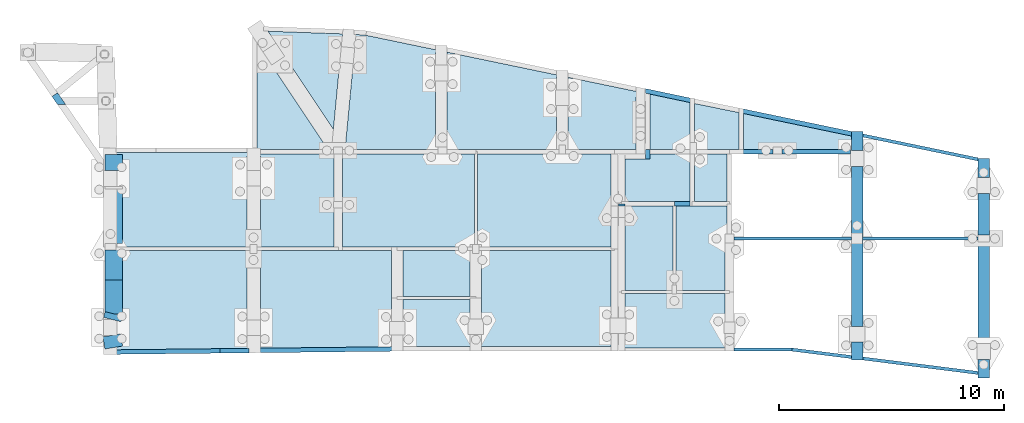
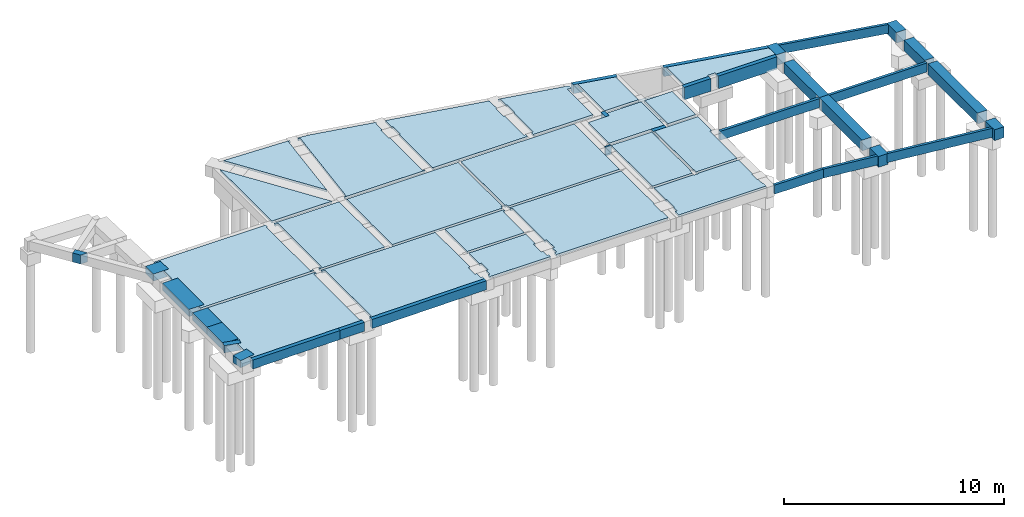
# One storey, part 3 of 5: 22 beams, 22 slabs, 9 walls.
"""IFC4 building model written with IfcOpenShell, lengths in centimetres."""

from ifc_helpers import new_model, si_unit, derived_unit, frame, origin, origin_with_axes, origin_2d_with_axis, place, context, project, spatial, polyline, rectangle, outline, extrude, clip, halfspace, material, element, save


model = new_model("IFC4")

# Units and contexts
model_context = context("Model", 3, precision=1e-05, world=origin_with_axes(), identifier="Body")
ifc_project = project(units=[si_unit("LENGTHUNIT", "METRE", prefix="CENTI"), si_unit("VOLUMEUNIT", "CUBIC_METRE"), si_unit("AREAUNIT", "SQUARE_METRE"), si_unit("POWERUNIT", "WATT"), si_unit("LUMINOUSFLUXUNIT", "LUMEN"), si_unit("ELECTRICCURRENTUNIT", "AMPERE"), si_unit("PRESSUREUNIT", "PASCAL", prefix="KILO"), si_unit("MASSUNIT", "GRAM", prefix="KILO"), si_unit("PLANEANGLEUNIT", "RADIAN"), derived_unit("VOLUMETRICFLOWRATEUNIT", [(si_unit("LENGTHUNIT", "METRE"), 3), (si_unit("TIMEUNIT", "SECOND"), -1)])], contexts=[model_context])

# Site, building, storey
site_placement = place(None, origin_with_axes())
site = spatial("IfcSite", under=ifc_project, at=site_placement)
building_placement = place(site_placement, origin())
building = spatial("IfcBuilding", under=site, at=building_placement)
storey_placement = place(building_placement, origin_with_axes())
storey = spatial("IfcBuildingStorey", under=building, at=storey_placement, Name="PÁTIO", CompositionType="ELEMENT", Elevation=0.0)

# Beams
ifc_material = material(Name="Concreto")
beam_1_placement = place(storey_placement, frame((162.51393133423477, -219.39417030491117, 0.0), z_axis=(0.0, 0.0, 1.0), x_axis=(1.0, 0.0, 0.0)))
element("IfcBeam", 1, at=beam_1_placement, inside=storey, material=ifc_material, Name="V.MURO3", context=model_context, shape_type="Clipping", body=[
    clip(extrude(rectangle(XDim=30.0, YDim=50.0, at=origin_2d_with_axis()), frame((17.723951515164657, -34.127459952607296, -25.0), z_axis=(-0.569442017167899, 0.822031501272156, 0.0), x_axis=(0.822031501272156, 0.569442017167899, 0.0)), (0.0, 0.0, 1.0), 62.25024139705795), halfspace(frame((-6.440527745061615, -25.58582969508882, 0.0), z_axis=(0.0, 1.0, 0.0), x_axis=(0.0, 0.0, 0.569442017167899)), True)),
])
beam_2_placement = place(storey_placement, frame((2668.6, -693.1, 0.0), z_axis=(0.0, 0.0, 1.0), x_axis=(1.0, 0.0, 0.0)))
element("IfcBeam", 2, at=beam_2_placement, inside=storey, material=ifc_material, Name="V20", context=model_context, shape_type="SolidModel", body=[
    extrude(rectangle(XDim=30.0, YDim=50.0, at=origin_2d_with_axis()), frame((0.0, -5.0, -25.0), z_axis=(0.0, 1.0, 0.0), x_axis=(1.0, 0.0, 0.0)), (0.0, 0.0, 1.0), 10.0),
])
beam_3_placement = place(storey_placement, frame((2785.0, -466.9, 0.0), z_axis=(0.0, 0.0, 1.0), x_axis=(1.0, 0.0, 0.0)))
element("IfcBeam", 3, at=beam_3_placement, inside=storey, material=ifc_material, Name="V21", context=model_context, shape_type="SolidModel", body=[
    extrude(rectangle(XDim=20.0, YDim=50.0, at=origin_2d_with_axis()), frame((0.0, -21.0, -25.0), z_axis=(0.0, 1.0, 0.0), x_axis=(1.0, 0.0, 0.0)), (0.0, 0.0, 1.0), 42.0),
])
beam_4_placement = place(storey_placement, frame((3717.85, -1038.24, 0.0), z_axis=(0.0, 0.0, 1.0), x_axis=(1.0, 0.0, 0.0)))
element("IfcBeam", 4, at=beam_4_placement, inside=storey, material=ifc_material, Name="V28", context=model_context, shape_type="SolidModel", body=[
    extrude(rectangle(XDim=50.0, YDim=60.0, at=origin_2d_with_axis()), frame((0.0, -195.14, -30.0), z_axis=(0.0, 1.0, 0.0), x_axis=(1.0, 0.0, 0.0)), (0.0, 0.0, 1.0), 390.28),
])
beam_5_placement = place(storey_placement, frame((3717.85, -1343.213332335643, 0.0), z_axis=(0.0, 0.0, 1.0), x_axis=(1.0, 0.0, 0.0)))
element("IfcBeam", 5, at=beam_5_placement, inside=storey, material=ifc_material, Name="V28", context=model_context, shape_type="SolidModel", body=[
    extrude(rectangle(XDim=50.0, YDim=60.0, at=origin_2d_with_axis()), frame((0.0, -39.833332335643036, -30.0), z_axis=(0.0, 1.0, 0.0), x_axis=(1.0, 0.0, 0.0)), (0.0, 0.0, 1.0), 79.66666467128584),
])
beam_6_placement = place(storey_placement, frame((3717.85, -682.5, 0.0), z_axis=(0.0, 0.0, 1.0), x_axis=(1.0, 0.0, 0.0)))
element("IfcBeam", 6, at=beam_6_placement, inside=storey, material=ifc_material, Name="V28", context=model_context, shape_type="SolidModel", body=[
    extrude(rectangle(XDim=50.0, YDim=60.0, at=origin_2d_with_axis()), frame((0.0, -160.6, -30.0), z_axis=(0.0, 1.0, 0.0), x_axis=(1.0, 0.0, 0.0)), (0.0, 0.0, 1.0), 321.2),
])
beam_7_placement = place(storey_placement, frame((3717.85, -409.5800394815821, 0.0), z_axis=(0.0, 0.0, 1.0), x_axis=(1.0, 0.0, 0.0)))
element("IfcBeam", 7, at=beam_7_placement, inside=storey, material=ifc_material, Name="V28", context=model_context, shape_type="SolidModel", body=[
    extrude(rectangle(XDim=50.0, YDim=60.0, at=origin_2d_with_axis()), frame((0.0, -42.31996051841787, -30.0), z_axis=(0.0, 1.0, 0.0), x_axis=(1.0, 0.0, 0.0)), (0.0, 0.0, 1.0), 84.63992103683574),
])
beam_8_placement = place(storey_placement, frame((4280.6, -1422.845, 0.0), z_axis=(0.0, 0.0, 1.0), x_axis=(1.0, 0.0, 0.0)))
element("IfcBeam", 8, at=beam_8_placement, inside=storey, material=ifc_material, Name="V29", context=model_context, shape_type="SolidModel", body=[
    extrude(rectangle(XDim=50.0, YDim=60.0, at=origin_2d_with_axis()), frame((0.0, -41.625, -30.0), z_axis=(0.0, 1.0, 0.0), x_axis=(1.0, 0.0, 0.0)), (0.0, 0.0, 1.0), 83.25),
])
beam_9_placement = place(storey_placement, frame((4280.6, -734.84, 0.0), z_axis=(0.0, 0.0, 1.0), x_axis=(1.0, 0.0, 0.0)))
element("IfcBeam", 9, at=beam_9_placement, inside=storey, material=ifc_material, Name="V29", context=model_context, shape_type="SolidModel", body=[
    extrude(rectangle(XDim=50.0, YDim=60.0, at=origin_2d_with_axis()), frame((0.0, -93.26, -30.0), z_axis=(0.0, 1.0, 0.0), x_axis=(1.0, 0.0, 0.0)), (0.0, 0.0, 1.0), 186.52),
])
beam_10_placement = place(storey_placement, frame((4280.6, -528.5000789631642, 0.0), z_axis=(0.0, 0.0, 1.0), x_axis=(1.0, 0.0, 0.0)))
element("IfcBeam", 10, at=beam_10_placement, inside=storey, material=ifc_material, Name="V29", context=model_context, shape_type="SolidModel", body=[
    extrude(rectangle(XDim=50.0, YDim=60.0, at=origin_2d_with_axis()), frame((0.0, -43.0799210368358, -30.0), z_axis=(0.0, 1.0, 0.0), x_axis=(1.0, 0.0, 0.0)), (0.0, 0.0, 1.0), 86.15984207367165),
])
beam_11_placement = place(storey_placement, frame((4280.6, -1084.66, 0.0), z_axis=(0.0, 0.0, 1.0), x_axis=(1.0, 0.0, 0.0)))
element("IfcBeam", 11, at=beam_11_placement, inside=storey, material=ifc_material, Name="V29", context=model_context, shape_type="SolidModel", body=[
    extrude(rectangle(XDim=50.0, YDim=60.0, at=origin_2d_with_axis()), frame((0.0, -226.56, -30.0), z_axis=(0.0, 1.0, 0.0), x_axis=(1.0, 0.0, 0.0)), (0.0, 0.0, 1.0), 453.12),
])
beam_12_placement = place(storey_placement, frame((3271.5, -455.9, 0.0), z_axis=(0.0, 0.0, 1.0), x_axis=(1.0, 0.0, 0.0)))
element("IfcBeam", 12, at=beam_12_placement, inside=storey, material=ifc_material, Name="V3", context=model_context, shape_type="SolidModel", body=[
    extrude(rectangle(XDim=20.0, YDim=70.0, at=origin_2d_with_axis()), frame((-70.1, 0.0, -35.0), z_axis=(1.0, 0.0, 0.0), x_axis=(0.0, 1.0, 0.0)), (0.0, 0.0, 1.0), 140.2),
])
beam_13_placement = place(storey_placement, frame((3534.725, -455.9, 0.0), z_axis=(0.0, 0.0, 1.0), x_axis=(1.0, 0.0, 0.0)))
element("IfcBeam", 13, at=beam_13_placement, inside=storey, material=ifc_material, Name="V3", context=model_context, shape_type="SolidModel", body=[
    extrude(rectangle(XDim=20.0, YDim=70.0, at=origin_2d_with_axis()), frame((-153.125, 0.0, -35.0), z_axis=(1.0, 0.0, 0.0), x_axis=(0.0, 1.0, 0.0)), (0.0, 0.0, 1.0), 306.25),
])
beam_14_placement = place(storey_placement, frame((3446.1029201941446, -325.537081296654, 0.0), z_axis=(0.0, 0.0, 1.0), x_axis=(1.0, 0.0, 0.0)))
element("IfcBeam", 14, at=beam_14_placement, inside=storey, material=ifc_material, Name="V31", context=model_context, shape_type="Clipping", body=[
    clip(extrude(rectangle(XDim=20.0, YDim=50.0, at=origin_2d_with_axis()), frame((-244.70292019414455, 51.52708129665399, -25.0), z_axis=(0.978884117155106, -0.204415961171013, 0.0), x_axis=(0.204415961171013, 0.978884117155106, 0.0)), (0.0, 0.0, 1.0), 504.1395104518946), halfspace(frame((246.74707980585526, -40.88449483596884, -50.0), z_axis=(-1.0, 0.0, 0.0), x_axis=(0.0, 0.0, 0.204415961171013)), True)),
])
beam_15_placement = place(storey_placement, frame((2880.029829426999, -207.15824281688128, 0.0), z_axis=(0.0, 0.0, 1.0), x_axis=(1.0, 0.0, 0.0)))
element("IfcBeam", 15, at=beam_15_placement, inside=storey, material=ifc_material, Name="V31", context=model_context, shape_type="Clipping", body=[
    clip(extrude(rectangle(XDim=20.0, YDim=50.0, at=origin_2d_with_axis()), frame((-107.08948828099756, 22.106544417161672, -25.0), z_axis=(0.978559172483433, -0.205965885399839, 0.0), x_axis=(0.205965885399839, 0.978559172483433, 0.0)), (0.0, 0.0, 1.0), 214.66219392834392), halfspace(frame((-105.02982942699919, 31.892136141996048, 0.0), z_axis=(1.0, 0.0, 0.0), x_axis=(0.0, 0.0, -0.205965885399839)), True)),
])
beam_16_placement = place(storey_placement, frame((3974.8665353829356, -432.3998820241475, 0.0), z_axis=(0.0, 0.0, 1.0), x_axis=(1.0, 0.0, 0.0)))
element("IfcBeam", 16, at=beam_16_placement, inside=storey, material=ifc_material, Name="V32", context=model_context, shape_type="Clipping", body=[
    clip(extrude(rectangle(XDim=14.0, YDim=50.0, at=origin_2d_with_axis()), frame((-279.3109728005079, 58.2644371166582, -25.0), z_axis=(0.979134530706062, -0.203213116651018, 0.0), x_axis=(0.203213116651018, 0.979134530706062, 0.0)), (0.0, 0.0, 1.0), 573.4318539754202), halfspace(frame((280.7334646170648, -50.82003722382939, -50.0), z_axis=(-1.0, 0.0, 0.0), x_axis=(0.0, 0.0, 0.203213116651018)), True)),
])
beam_17_placement = place(storey_placement, frame((3986.287928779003, -1407.547980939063, 0.0), z_axis=(0.0, 0.0, 1.0), x_axis=(1.0, 0.0, 0.0)))
element("IfcBeam", 17, at=beam_17_placement, inside=storey, material=ifc_material, Name="V34", context=model_context, shape_type="Clipping", body=[
    clip(extrude(rectangle(XDim=14.0, YDim=50.0, at=origin_2d_with_axis()), frame((-268.4384148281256, 33.87720517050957, -25.0), z_axis=(0.992180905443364, -0.124808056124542, 0.0), x_axis=(0.124808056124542, 0.992180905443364, 0.0)), (0.0, 0.0, 1.0), 542.8688855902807), halfspace(frame((269.3120712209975, -26.712141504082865, -50.0), z_axis=(-1.0, 0.0, 0.0), x_axis=(0.0, 0.0, 0.124808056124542)), True)),
])
beam_18_placement = place(storey_placement, frame((3297.71870723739, -1337.1, 0.0), z_axis=(0.0, 0.0, 1.0), x_axis=(1.0, 0.0, 0.0)))
element("IfcBeam", 18, at=beam_18_placement, inside=storey, material=ifc_material, Name="V34", context=model_context, shape_type="Clipping", body=[
    clip(extrude(rectangle(XDim=14.0, YDim=50.0, at=origin_2d_with_axis()), frame((-129.11870723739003, 0.0, -25.0), z_axis=(1.0, 0.0, 0.0), x_axis=(0.0, 1.0, 0.0)), (0.0, 0.0, 1.0), 258.2374144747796), halfspace(frame((129.11870723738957, 7.0, -50.0), z_axis=(-0.998053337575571, 0.062366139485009, 0.0), x_axis=(0.0, 0.0, -0.062366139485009)), True)),
])
beam_19_placement = place(storey_placement, frame((3559.406292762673, -1353.8425777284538, 0.0), z_axis=(0.0, 0.0, 1.0), x_axis=(1.0, 0.0, 0.0)))
element("IfcBeam", 19, at=beam_19_placement, inside=storey, material=ifc_material, Name="V34", context=model_context, shape_type="Clipping", body=[
    clip(clip(extrude(rectangle(XDim=14.0, YDim=50.0, at=origin_2d_with_axis()), frame((-133.44030455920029, 16.797031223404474, -25.0), z_axis=(0.992220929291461, -0.124489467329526, 0.0), x_axis=(0.124489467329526, 0.992220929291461, 0.0)), (0.0, 0.0, 1.0), 269.85465652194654), halfspace(frame((-132.56887828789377, 23.742577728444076, 0.0), z_axis=(0.99805333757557, -0.062366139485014, 0.0), x_axis=(0.0, 0.0, -0.062366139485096)), True)), halfspace(frame((133.4437072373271, -9.632816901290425, -50.0), z_axis=(-1.0, 0.0, 0.0), x_axis=(0.0, 0.0, 0.124489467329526)), True)),
])
beam_20_placement = place(storey_placement, frame((2938.3, -688.1, 0.0), z_axis=(0.0, 0.0, 1.0), x_axis=(1.0, 0.0, 0.0)))
element("IfcBeam", 20, at=beam_20_placement, inside=storey, material=ifc_material, Name="V4", context=model_context, shape_type="SolidModel", body=[
    extrude(rectangle(XDim=20.0, YDim=50.0, at=origin_2d_with_axis()), frame((-34.7, 0.0, -25.0), z_axis=(1.0, 0.0, 0.0), x_axis=(0.0, 1.0, 0.0)), (0.0, 0.0, 1.0), 69.4),
])
beam_21_placement = place(storey_placement, frame((3430.1, -843.1, 0.0), z_axis=(0.0, 0.0, 1.0), x_axis=(1.0, 0.0, 0.0)))
element("IfcBeam", 21, at=beam_21_placement, inside=storey, material=ifc_material, Name="V7", context=model_context, shape_type="SolidModel", body=[
    extrude(rectangle(XDim=14.0, YDim=50.0, at=origin_2d_with_axis()), frame((-261.5, 0.0, -25.0), z_axis=(1.0, 0.0, 0.0), x_axis=(0.0, 1.0, 0.0)), (0.0, 0.0, 1.0), 523.0),
])
beam_22_placement = place(storey_placement, frame((3998.6, -843.1, 0.0), z_axis=(0.0, 0.0, 1.0), x_axis=(1.0, 0.0, 0.0)))
element("IfcBeam", 22, at=beam_22_placement, inside=storey, material=ifc_material, Name="V7", context=model_context, shape_type="SolidModel", body=[
    extrude(rectangle(XDim=14.0, YDim=50.0, at=origin_2d_with_axis()), frame((-257.0, 0.0, -25.0), z_axis=(1.0, 0.0, 0.0), x_axis=(0.0, 1.0, 0.0)), (0.0, 0.0, 1.0), 514.0),
])

# Slabs
slab_1_placement = place(storey_placement, frame((1202.802, -209.0975, 0.0), z_axis=(0.0, 0.0, 1.0), x_axis=(1.0, 0.0, 0.0)))
element("IfcSlab", 23, at=slab_1_placement, inside=storey, material=ifc_material, Name="L1", PredefinedType="FLOOR", context=model_context, shape_type="SolidModel", body=[
    extrude(outline(polyline([(-92.4920999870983, 138.83763295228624), (-131.33109998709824, 197.07763295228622), (-157.80209998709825, 236.80163295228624), (-157.80109998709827, -236.80136704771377), (157.8019000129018, -236.80136704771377), (-92.4920999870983, 138.83763295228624), (-92.4920999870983, 138.83763295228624)])), frame((9.998709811e-05, -0.000132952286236, -12.0), z_axis=(0.0, 0.0, 1.0), x_axis=(1.0, 0.0, 0.0)), (0.0, 0.0, 1.0), 12.0),
])
slab_2_placement = place(storey_placement, frame((1215.7425, -673.6495, 0.0), z_axis=(0.0, 0.0, 1.0), x_axis=(1.0, 0.0, 0.0)))
element("IfcSlab", 24, at=slab_2_placement, inside=storey, material=ifc_material, Name="L10", PredefinedType="FLOOR", context=model_context, shape_type="SolidModel", body=[
    extrude(outline(polyline([(171.2166625, -34.249), (170.2576625, -34.249), (170.2576625, -4.249), (171.2176625, -4.249), (171.2176625, 207.75), (-170.7423375, 207.749), (-170.7423375, 197.85), (-156.0413375, 197.85), (-156.0413375, -197.749), (-171.1823375, -197.749), (-171.2173375, -207.749), (171.2166625, -207.749), (171.2166625, -34.249), (171.2166625, -34.249)])), frame((-0.0001625, -0.0005, -12.0), z_axis=(0.0, 0.0, 1.0), x_axis=(1.0, 0.0, 0.0)), (0.0, 0.0, 1.0), 12.0),
])
slab_3_placement = place(storey_placement, frame((1719.3, -673.65, 0.0), z_axis=(0.0, 0.0, 1.0), x_axis=(1.0, 0.0, 0.0)))
element("IfcSlab", 25, at=slab_3_placement, inside=storey, material=ifc_material, Name="L11", PredefinedType="FLOOR", context=model_context, shape_type="SolidModel", body=[
    extrude(outline(polyline([(-292.34, -207.75), (285.299, -207.749), (285.299, -194.749), (293.299, -194.749), (293.3, 207.75), (-292.339, 207.75), (-292.339, -7.249), (-293.3, -7.249), (-293.3, -31.249), (-292.339, -31.249), (-292.34, -207.75), (-292.34, -207.75)])), frame((0.0, 0.0, -12.0), z_axis=(0.0, 0.0, 1.0), x_axis=(1.0, 0.0, 0.0)), (0.0, 0.0, 1.0), 12.0),
])
slab_4_placement = place(storey_placement, frame((2324.1, -673.65, 0.0), z_axis=(0.0, 0.0, 1.0), x_axis=(1.0, 0.0, 0.0)))
element("IfcSlab", 26, at=slab_4_placement, inside=storey, material=ifc_material, Name="L12", PredefinedType="FLOOR", context=model_context, shape_type="SolidModel", body=[
    extrude(outline(polyline([(297.5, -207.75), (297.499, 207.75), (-297.499, 207.749), (-297.5, -194.749), (-289.5, -194.749), (-289.5, -207.749), (297.5, -207.75), (297.5, -207.75)])), frame((0.0, 0.0, -12.0), z_axis=(0.0, 0.0, 1.0), x_axis=(1.0, 0.0, 0.0)), (0.0, 0.0, 1.0), 12.0),
])
slab_5_placement = place(storey_placement, frame((2828.3, -572.0, 0.0), z_axis=(0.0, 0.0, 1.0), x_axis=(1.0, 0.0, 0.0)))
element("IfcSlab", 27, at=slab_5_placement, inside=storey, material=ifc_material, Name="L13", PredefinedType="FLOOR", context=model_context, shape_type="SolidModel", body=[
    extrude(outline(polyline([(144.7, 106.1), (-33.3, 106.1), (-33.3, 94.1), (-43.3, 94.1), (-43.3, 84.1), (-144.7, 84.099), (-144.7, -106.099), (144.7, -106.1), (144.7, 106.1), (144.7, 106.1)])), frame((0.0, 0.0, -12.0), z_axis=(0.0, 0.0, 1.0), x_axis=(1.0, 0.0, 0.0)), (0.0, 0.0, 1.0), 12.0),
])
slab_6_placement = place(storey_placement, frame((3065.8, -572.0, 0.0), z_axis=(0.0, 0.0, 1.0), x_axis=(1.0, 0.0, 0.0)))
element("IfcSlab", 28, at=slab_6_placement, inside=storey, material=ifc_material, Name="L14", PredefinedType="FLOOR", context=model_context, shape_type="SolidModel", body=[
    extrude(outline(polyline([(72.799, 106.099), (-72.8, 106.1), (-72.8, -106.1), (72.8, -106.1), (72.799, 106.099), (72.799, 106.099)])), frame((0.0, 0.0, -12.0), z_axis=(0.0, 0.0, 1.0), x_axis=(1.0, 0.0, 0.0)), (0.0, 0.0, 1.0), 12.0),
])
slab_7_placement = place(storey_placement, frame((2790.1, -885.6, 0.0), z_axis=(0.0, 0.0, 1.0), x_axis=(1.0, 0.0, 0.0)))
element("IfcSlab", 29, at=slab_7_placement, inside=storey, material=ifc_material, Name="L15", PredefinedType="FLOOR", context=model_context, shape_type="SolidModel", body=[
    extrude(outline(polyline([(103.499, -164.499), (106.499, -164.499), (106.5, 187.499), (-106.5, 187.499), (-106.499, -187.499), (103.499, -187.499), (103.499, -164.499), (103.499, -164.499)])), frame((0.0, 0.0, -12.0), z_axis=(0.0, 0.0, 1.0), x_axis=(1.0, 0.0, 0.0)), (0.0, 0.0, 1.0), 12.0),
])
slab_8_placement = place(storey_placement, frame((3024.6, -885.6, 0.0), z_axis=(0.0, 0.0, 1.0), x_axis=(1.0, 0.0, 0.0)))
element("IfcSlab", 30, at=slab_8_placement, inside=storey, material=ifc_material, Name="L16", PredefinedType="FLOOR", context=model_context, shape_type="SolidModel", body=[
    extrude(outline(polyline([(103.999, 61.999), (113.999, 62.0), (113.999, 187.499), (-113.999, 187.499), (-113.999, -164.499), (-111.0, -164.499), (-111.0, -187.499), (103.999, -187.499), (103.999, 61.999), (103.999, 61.999)])), frame((0.0, 0.0, -12.0), z_axis=(0.0, 0.0, 1.0), x_axis=(1.0, 0.0, 0.0)), (0.0, 0.0, 1.0), 12.0),
])
slab_9_placement = place(storey_placement, frame((711.1125, -1116.798, 0.0), z_axis=(0.0, 0.0, 1.0), x_axis=(1.0, 0.0, 0.0)))
element("IfcSlab", 31, at=slab_9_placement, inside=storey, material=ifc_material, Name="L17", PredefinedType="FLOOR", context=model_context, shape_type="SolidModel", body=[
    extrude(outline(polyline([(168.3773375, -216.2606867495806), (298.5873375, -214.8146867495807), (298.5873375, -207.20168674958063), (288.5873375, -207.20168674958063), (288.5873375, 211.3983132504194), (303.3273375, 211.3983132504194), (303.3623375, 221.3983132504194), (-293.3616625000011, 221.3973132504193), (-293.3626625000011, -61.00068674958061), (-303.3626625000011, -61.00068674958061), (-293.6526625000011, -63.391686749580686), (-299.46666250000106, -87.02168674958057), (-288.3626625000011, -87.02068674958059), (-288.3626625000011, -157.0206867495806), (-302.3626625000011, -157.0206867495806), (-293.3626625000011, -211.40168674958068), (-293.3626625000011, -221.39768674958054), (168.3773375, -216.2606867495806), (168.3773375, -216.2606867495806)])), frame((0.000162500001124, -0.000313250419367, -12.0), z_axis=(0.0, 0.0, 1.0), x_axis=(1.0, 0.0, 0.0)), (0.0, 0.0, 1.0), 12.0),
])
slab_10_placement = place(storey_placement, frame((1349.5205, -1113.283, 0.0), z_axis=(0.0, 0.0, 1.0), x_axis=(1.0, 0.0, 0.0)))
element("IfcSlab", 32, at=slab_10_placement, inside=storey, material=ifc_material, Name="L18", PredefinedType="FLOOR", context=model_context, shape_type="SolidModel", body=[
    extrude(outline(polyline([(305.0796625, -211.14969667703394), (305.0786625, -193.81669667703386), (295.0786625, -193.81569667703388), (295.0786625, -158.906696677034), (285.0786625, -158.906696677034), (285.0786625, -98.906696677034), (295.0786625, -98.90569667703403), (295.0786625, 217.88230332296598), (-305.0443375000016, 217.88330332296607), (-305.07933750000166, 207.88330332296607), (-289.81933750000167, 207.88330332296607), (-289.81933750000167, -210.71669667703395), (-299.81933750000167, -210.71669667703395), (-299.82033750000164, -217.8826966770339), (305.0796625, -211.14969667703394), (305.0796625, -211.14969667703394)])), frame((-0.0001625, -0.000303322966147, -12.0), z_axis=(0.0, 0.0, 1.0), x_axis=(1.0, 0.0, 0.0)), (0.0, 0.0, 1.0), 12.0),
])
slab_11_placement = place(storey_placement, frame((1849.5995, -997.65, 0.0), z_axis=(0.0, 0.0, 1.0), x_axis=(1.0, 0.0, 0.0)))
element("IfcSlab", 33, at=slab_11_placement, inside=storey, material=ifc_material, Name="L19", PredefinedType="FLOOR", context=model_context, shape_type="SolidModel", body=[
    extrude(outline(polyline([(145.0, -102.249), (144.999, 92.25), (154.999, 92.25), (154.999, 102.25), (-155.0, 102.249), (-155.0, -102.25), (145.0, -102.249), (145.0, -102.249)])), frame((0.0005, 0.0, -12.0), z_axis=(0.0, 0.0, 1.0), x_axis=(1.0, 0.0, 0.0)), (0.0, 0.0, 1.0), 12.0),
])
slab_12_placement = place(storey_placement, frame((1265.123, -138.269, 0.0), z_axis=(0.0, 0.0, 1.0), x_axis=(1.0, 0.0, 0.0)))
element("IfcSlab", 34, at=slab_12_placement, inside=storey, material=ifc_material, Name="L2", PredefinedType="FLOOR", context=model_context, shape_type="SolidModel", body=[
    extrude(outline(polyline([(148.73615679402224, 80.11917410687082), (155.44615679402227, 149.79917410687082), (160.50715679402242, 202.54917410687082), (170.61015679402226, 201.58117410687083), (171.02115679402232, 206.37517410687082), (-171.0208432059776, 218.51017410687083), (-135.41184320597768, 165.08917410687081), (-96.57284320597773, 106.84917410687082), (120.21515679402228, -218.50982589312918), (148.73615679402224, 80.11917410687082), (148.73615679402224, 80.11917410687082)])), frame((-0.000156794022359, -0.000174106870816, -12.0), z_axis=(0.0, 0.0, 1.0), x_axis=(1.0, 0.0, 0.0)), (0.0, 0.0, 1.0), 12.0),
])
slab_13_placement = place(storey_placement, frame((2328.1, -1109.75, 0.0), z_axis=(0.0, 0.0, 1.0), x_axis=(1.0, 0.0, 0.0)))
element("IfcSlab", 35, at=slab_13_placement, inside=storey, material=ifc_material, Name="L20", PredefinedType="FLOOR", context=model_context, shape_type="SolidModel", body=[
    extrude(outline(polyline([(293.499, -156.409), (289.499, -156.41), (289.499, -86.41), (293.499, -86.41), (293.5, 214.35), (-293.5, 214.35), (-293.499, 204.349), (-283.5, 204.35), (-283.5, -90.93), (-273.5, -90.93), (-273.5, -160.93), (-283.499, -160.93), (-283.5, -197.349), (-293.5, -197.349), (-293.499, -214.35), (293.499, -214.35), (293.499, -156.409), (293.499, -156.409)])), frame((0.0, 0.0, -12.0), z_axis=(0.0, 0.0, 1.0), x_axis=(1.0, 0.0, 0.0)), (0.0, 0.0, 1.0), 12.0),
])
slab_14_placement = place(storey_placement, frame((1844.5995, -1219.0, 0.0), z_axis=(0.0, 0.0, 1.0), x_axis=(1.0, 0.0, 0.0)))
element("IfcSlab", 36, at=slab_14_placement, inside=storey, material=ifc_material, Name="L21", PredefinedType="FLOOR", context=model_context, shape_type="SolidModel", body=[
    extrude(outline(polyline([(159.999, -105.099), (159.999, -88.099), (149.999, -88.099), (150.0, -51.68), (139.999, -51.68), (139.999, 18.319), (149.999, 18.32), (149.999, 105.1), (-149.999, 105.099), (-150.0, 6.809), (-140.0, 6.809), (-140.0, -53.19), (-149.999, -53.19), (-150.0, -88.099), (-160.0, -88.099), (-159.999, -105.1), (159.999, -105.099), (159.999, -105.099)])), frame((0.0005, 0.0, -12.0), z_axis=(0.0, 0.0, 1.0), x_axis=(1.0, 0.0, 0.0)), (0.0, 0.0, 1.0), 12.0),
])
slab_15_placement = place(storey_placement, frame((2903.5995, -1208.6, 0.0), z_axis=(0.0, 0.0, 1.0), x_axis=(1.0, 0.0, 0.0)))
element("IfcSlab", 37, at=slab_15_placement, inside=storey, material=ifc_material, Name="L22", PredefinedType="FLOOR", context=model_context, shape_type="SolidModel", body=[
    extrude(outline(polyline([(229.999, -121.499), (229.999, -98.499), (224.999, -98.499), (224.999, -56.77), (219.999, -56.769), (219.999, -6.769), (225.0, -6.769), (225.0, 121.5), (9.999, 121.5), (9.999, 118.5), (-10.0, 118.5), (-10.0, 121.499), (-220.0, 121.5), (-220.0, 12.44), (-216.0, 12.439), (-216.0, -57.56), (-219.999, -57.559), (-220.0, -88.499), (-230.0, -87.5), (-229.999, -121.5), (229.999, -121.499), (229.999, -121.499)])), frame((0.0005, 0.0, -12.0), z_axis=(0.0, 0.0, 1.0), x_axis=(1.0, 0.0, 0.0)), (0.0, 0.0, 1.0), 12.0),
])
slab_16_placement = place(storey_placement, frame((1638.5, -189.601, 0.0), z_axis=(0.0, 0.0, 1.0), x_axis=(1.0, 0.0, 0.0)))
element("IfcSlab", 38, at=slab_16_placement, inside=storey, material=ifc_material, Name="L3", PredefinedType="FLOOR", context=model_context, shape_type="SolidModel", body=[
    extrude(outline(polyline([(212.5, -248.69902423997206), (202.5, -249.29802423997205), (202.499, 49.180975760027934), (197.5, 49.180975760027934), (197.5, 119.18097576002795), (202.5, 119.17997576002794), (202.5, 174.73097576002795), (207.465, 176.96097576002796), (209.292, 185.78997576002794), (-108.394, 251.75297576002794), (-162.33, 256.29897576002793), (-162.949, 249.09897576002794), (-153.15, 248.16097576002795), (-158.21, 195.37097576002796), (-164.92, 125.70097576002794), (-201.0, -252.13902423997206), (-212.499, -251.03702423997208), (-212.5, -256.299024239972), (212.499, -256.299024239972), (212.5, -248.69902423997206), (212.5, -248.69902423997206)])), frame((0.0, 2.4239972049e-05, -12.0), z_axis=(0.0, 0.0, 1.0), x_axis=(1.0, 0.0, 0.0)), (0.0, 0.0, 1.0), 12.0),
])
slab_17_placement = place(storey_placement, frame((2140.25, -229.341, 0.0), z_axis=(0.0, 0.0, 1.0), x_axis=(1.0, 0.0, 0.0)))
element("IfcSlab", 39, at=slab_17_placement, inside=storey, material=ifc_material, Name="L4", PredefinedType="FLOOR", context=model_context, shape_type="SolidModel", body=[
    extrude(outline(polyline([(249.25, -199.55824549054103), (239.25, -199.55824549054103), (239.249, -21.80924549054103), (234.25, -21.80924549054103), (234.25, 48.189754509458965), (239.249, 48.19075450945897), (239.25, 104.89475450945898), (238.84, 104.98075450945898), (239.249, 106.94475450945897), (239.25, 107.90075450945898), (239.445, 107.87975450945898), (240.885, 114.77975450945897), (-249.25, 216.55875450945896), (-249.25, 158.920754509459), (-244.25, 158.91975450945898), (-244.25, 88.92075450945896), (-249.25, 88.92075450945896), (-249.25, -216.55824549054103), (249.25, -216.559245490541), (249.25, -199.55824549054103), (249.25, -199.55824549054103)])), frame((0.0, 0.000245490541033, -12.0), z_axis=(0.0, 0.0, 1.0), x_axis=(1.0, 0.0, 0.0)), (0.0, 0.0, 1.0), 12.0),
])
slab_18_placement = place(storey_placement, frame((2586.2505, -284.2955, 0.0), z_axis=(0.0, 0.0, 1.0), x_axis=(1.0, 0.0, 0.0)))
element("IfcSlab", 40, at=slab_18_placement, inside=storey, material=ifc_material, Name="L5", PredefinedType="FLOOR", context=model_context, shape_type="SolidModel", body=[
    extrude(outline(polyline([(-166.749, -161.6048688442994), (146.75, -161.60386884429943), (146.75, 71.80413115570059), (166.75, 70.30413115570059), (166.749, 92.52513115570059), (-165.95, 161.60413115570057), (-166.566, 158.65913115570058), (-156.75, 157.63513115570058), (-156.75, 103.14513115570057), (-151.75, 103.14513115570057), (-151.75, 33.14413115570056), (-156.75, 33.14413115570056), (-156.75, -144.60386884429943), (-166.749, -144.60386884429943), (-166.749, -161.6048688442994), (-166.749, -161.6048688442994)])), frame((-0.0005, 0.00036884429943, -12.0), z_axis=(0.0, 0.0, 1.0), x_axis=(1.0, 0.0, 0.0)), (0.0, 0.0, 1.0), 12.0),
])
slab_19_placement = place(storey_placement, frame((2884.0005, -322.909, 0.0), z_axis=(0.0, 0.0, 1.0), x_axis=(1.0, 0.0, 0.0)))
element("IfcSlab", 41, at=slab_19_placement, inside=storey, material=ifc_material, Name="L6", PredefinedType="FLOOR", context=model_context, shape_type="SolidModel", body=[
    extrude(outline(polyline([(89.0, 85.52711191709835), (-88.999, 122.99011191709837), (-88.999, -122.98988808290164), (89.0, -122.98988808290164), (89.0, 85.52711191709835), (89.0, 85.52711191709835)])), frame((-0.0005, -0.000111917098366, -12.0), z_axis=(0.0, 0.0, 1.0), x_axis=(1.0, 0.0, 0.0)), (0.0, 0.0, 1.0), 12.0),
])
slab_20_placement = place(storey_placement, frame((3092.2, -343.741, -150.0), z_axis=(0.0, 0.0, 1.0), x_axis=(1.0, 0.0, 0.0)))
element("IfcSlab", 42, at=slab_20_placement, inside=storey, material=ifc_material, Name="L7", PredefinedType="FLOOR", context=model_context, shape_type="SolidModel", body=[
    extrude(outline(polyline([(-89.2, -102.15924476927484), (99.2, -102.15824476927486), (99.2, 61.566755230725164), (-99.2, 102.15875523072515), (-99.2, -72.15924476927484), (-89.2, -72.15824476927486), (-89.2, -102.15924476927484), (-89.2, -102.15924476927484)])), frame((0.0, 0.000244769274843, -20.0), z_axis=(0.0, 0.0, 1.0), x_axis=(1.0, 0.0, 0.0)), (0.0, 0.0, 1.0), 20.0),
])
slab_21_placement = place(storey_placement, frame((3452.164, -369.1075, 0.0), z_axis=(0.0, 0.0, 1.0), x_axis=(1.0, 0.0, 0.0)))
element("IfcSlab", 43, at=slab_21_placement, inside=storey, material=ifc_material, Name="L8", PredefinedType="FLOOR", context=model_context, shape_type="SolidModel", body=[
    extrude(outline(polyline([(240.6862181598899, -27.931893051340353), (238.72521815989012, -27.521893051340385), (240.76321815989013, -17.759893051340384), (-240.76278184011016, 82.79210694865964), (-240.76278184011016, -76.79189305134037), (-110.5637818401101, -76.79289305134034), (-110.5637818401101, -66.79189305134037), (-70.5637818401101, -66.79189305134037), (-70.5637818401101, -76.79189305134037), (238.68521815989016, -76.79189305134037), (238.6862181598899, -82.79289305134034), (240.68521815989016, -82.79289305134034), (240.6862181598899, -27.931893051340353), (240.6862181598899, -27.931893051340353)])), frame((-0.000218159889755, 0.000393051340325, -12.0), z_axis=(0.0, 0.0, 1.0), x_axis=(1.0, 0.0, 0.0)), (0.0, 0.0, 1.0), 12.0),
])
slab_22_placement = place(storey_placement, frame((716.1545, -670.0995, 0.0), z_axis=(0.0, 0.0, 1.0), x_axis=(1.0, 0.0, 0.0)))
element("IfcSlab", 44, at=slab_22_placement, inside=storey, material=ifc_material, Name="L9", PredefinedType="FLOOR", context=model_context, shape_type="SolidModel", body=[
    extrude(outline(polyline([(298.4043375, -201.299), (283.5453375, -201.299), (283.5453375, 194.3), (288.8453375, 194.3), (288.8453375, 211.3), (-298.4046625, 211.3), (-298.4046625, 129.799), (-293.4046625, 129.8), (-293.4046625, 59.8), (-298.4036625, 59.8), (-298.4046625, -211.299), (298.3693375, -211.299), (298.4043375, -201.299), (298.4043375, -201.299)])), frame((0.0001625, -0.0005, -12.0), z_axis=(0.0, 0.0, 1.0), x_axis=(1.0, 0.0, 0.0)), (0.0, 0.0, 1.0), 12.0),
])

# Walls
wall_1_placement = place(storey_placement, frame((648.675, -1345.63, 0.0), z_axis=(0.0, 0.0, 1.0), x_axis=(1.0, 0.0, 0.0)))
element("IfcWall", 45, at=wall_1_placement, inside=storey, material=ifc_material, Name="PAR4-A", PredefinedType="SHEAR", context=model_context, shape_type="SweptSolid", body=[
    extrude(rectangle(XDim=20.0, YDim=50.0, at=origin_2d_with_axis()), frame((-230.925, -2.57, -25.0), z_axis=(1.0, 0.011128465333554, 0.0), x_axis=(0.011128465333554, -1.0, 0.0)), (0.0, 0.0, 1.0), 461.8786010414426),
])
wall_2_placement = place(storey_placement, frame((944.65, -1342.335, 0.0), z_axis=(0.0, 0.0, 1.0), x_axis=(1.0, 0.0, 0.0)))
element("IfcWall", 46, at=wall_2_placement, inside=storey, material=ifc_material, Name="PAR4-B", PredefinedType="SHEAR", context=model_context, shape_type="SweptSolid", body=[
    extrude(rectangle(XDim=20.0, YDim=50.0, at=origin_2d_with_axis()), frame((-65.05, -0.725, -25.0), z_axis=(1.0, 0.01114458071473, 0.0), x_axis=(0.01114458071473, -1.0, 0.0)), (0.0, 0.0, 1.0), 130.10808007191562),
])
wall_3_placement = place(storey_placement, frame((1352.15, -1337.8, 0.0), z_axis=(0.0, 0.0, 1.0), x_axis=(1.0, 0.0, 0.0)))
element("IfcWall", 47, at=wall_3_placement, inside=storey, material=ifc_material, Name="PAR4-C", PredefinedType="SHEAR", context=model_context, shape_type="SweptSolid", body=[
    extrude(rectangle(XDim=20.0, YDim=50.0, at=origin_2d_with_axis()), frame((-302.45, -3.37, -25.0), z_axis=(1.0, 0.011141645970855, 0.0), x_axis=(0.011141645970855, -1.0, 0.0)), (0.0, 0.0, 1.0), 604.9375485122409),
])
wall_4_placement = place(storey_placement, frame((407.45, -961.125, 0.0), z_axis=(0.0, 0.0, 1.0), x_axis=(1.0, 0.0, 0.0)))
element("IfcWall", 48, at=wall_4_placement, inside=storey, material=ifc_material, Name="PAR6-A", PredefinedType="SHEAR", context=model_context, shape_type="SweptSolid", body=[
    extrude(rectangle(XDim=80.0, YDim=40.0, at=origin_2d_with_axis()), frame((0.0, 66.225, -20.0), z_axis=(0.0, -1.0, 0.0), x_axis=(1.0, 0.0, 0.0)), (0.0, 0.0, 1.0), 132.45),
])
wall_5_placement = place(storey_placement, frame((407.45, -1102.57, 0.0), z_axis=(0.0, 0.0, 1.0), x_axis=(1.0, 0.0, 0.0)))
element("IfcWall", 49, at=wall_5_placement, inside=storey, material=ifc_material, Name="PAR6-B", PredefinedType="SHEAR", context=model_context, shape_type="SweptSolid", body=[
    extrude(rectangle(XDim=80.0, YDim=40.0, at=origin_2d_with_axis()), frame((0.0, 75.22, -20.0), z_axis=(0.0, -1.0, 0.0), x_axis=(1.0, 0.0, 0.0)), (0.0, 0.0, 1.0), 150.44),
])
wall_6_placement = place(storey_placement, frame((404.2586763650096, -1190.7333722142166, 0.0), z_axis=(0.0, 0.0, 1.0), x_axis=(1.0, 0.0, 0.0)))
element("IfcWall", 50, at=wall_6_placement, inside=storey, material=ifc_material, Name="PAR6-C", PredefinedType="SHEAR", context=model_context, shape_type="SweptSolid", body=[
    extrude(rectangle(XDim=80.0, YDim=40.0, at=origin_2d_with_axis()), frame((3.2, 13.015, -20.0), z_axis=(-0.238759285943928, -0.971078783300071, 0.0), x_axis=(0.971078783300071, -0.238759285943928, 0.0)), (0.0, 0.0, 1.0), 26.805240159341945),
])
wall_7_placement = place(storey_placement, frame((402.88914085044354, -1301.0596725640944, 0.0), z_axis=(0.0, 0.0, 1.0), x_axis=(1.0, 0.0, 0.0)))
element("IfcWall", 51, at=wall_7_placement, inside=storey, material=ifc_material, Name="PAR6-D", PredefinedType="SHEAR", context=model_context, shape_type="SweptSolid", body=[
    extrude(rectangle(XDim=80.0, YDim=40.0, at=origin_2d_with_axis()), frame((-4.565, 27.19, -20.0), z_axis=(0.165575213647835, -0.986197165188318, 0.0), x_axis=(0.986197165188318, 0.165575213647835, 0.0)), (0.0, 0.0, 1.0), 55.141103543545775),
])
wall_8_placement = place(storey_placement, frame((407.45, -504.55, 0.0), z_axis=(0.0, 0.0, 1.0), x_axis=(1.0, 0.0, 0.0)))
element("IfcWall", 52, at=wall_8_placement, inside=storey, material=ifc_material, Name="PAR7-A", PredefinedType="SHEAR", context=model_context, shape_type="SweptSolid", body=[
    extrude(rectangle(XDim=80.0, YDim=40.0, at=origin_2d_with_axis()), frame((0.0, 35.75, -20.0), z_axis=(0.0, -1.0, 0.0), x_axis=(1.0, 0.0, 0.0)), (0.0, 0.0, 1.0), 71.5),
])
wall_9_placement = place(storey_placement, frame((407.45, -743.875, 0.0), z_axis=(0.0, 0.0, 1.0), x_axis=(1.0, 0.0, 0.0)))
element("IfcWall", 53, at=wall_9_placement, inside=storey, material=ifc_material, Name="PAR7-C", PredefinedType="SHEAR", context=model_context, shape_type="SweptSolid", body=[
    extrude(rectangle(XDim=80.0, YDim=40.0, at=origin_2d_with_axis()), frame((0.0, 121.025, -20.0), z_axis=(0.0, -1.0, 0.0), x_axis=(1.0, 0.0, 0.0)), (0.0, 0.0, 1.0), 242.05),
])

save(model, "model.ifc")
